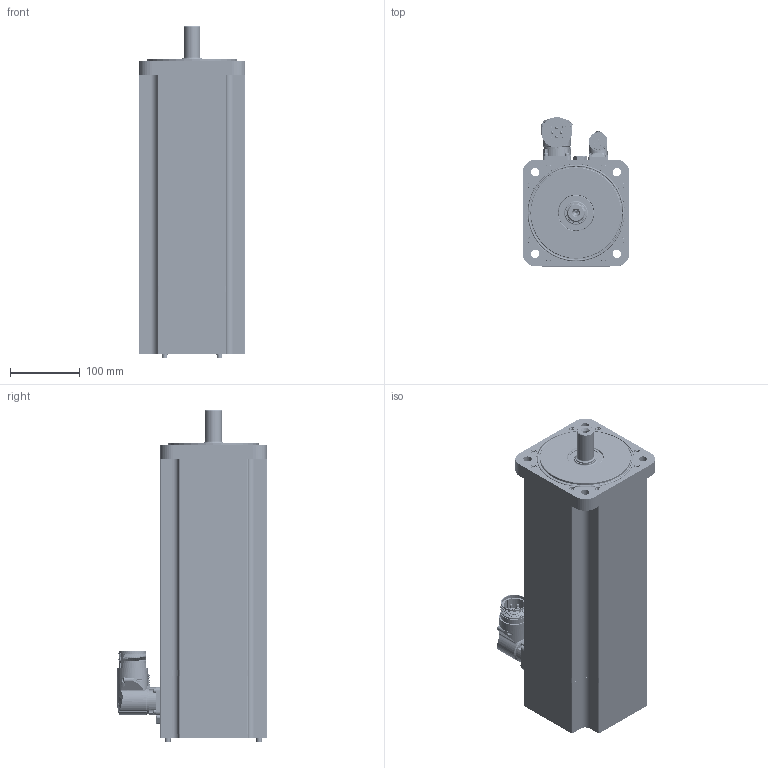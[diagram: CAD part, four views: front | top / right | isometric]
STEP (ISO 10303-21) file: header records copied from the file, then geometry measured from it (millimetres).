
FILE_DESCRIPTION (( 'STEP AP203' ), '1' );
FILE_NAME ('073713A.step', '2021-07-19T13:25:12', ( '' ), ( '' ), 'SwSTEP 2.0', 'SolidWorks 2019', '' );
FILE_SCHEMA (( 'CONFIG_CONTROL_DESIGN' ));
Products named in the file (1): 073713A
Bounding box: 152.4 x 213.64 x 474.5 mm (x, y, z)
Volume: 6694998.7 mm3; surface area: 1370532.3 mm2
Topology: 211 solids, 211 shells, 10723 faces, 28557 edges, 18550 vertices
Faces by surface type: plane 4888, cylinder 3798, bspline 973, cone 543, torus 449, sphere 72
Entity records: 488732 total; most frequent: CARTESIAN_POINT 228755, ORIENTED_EDGE 56600, DIRECTION 50706, EDGE_CURVE 28300, VERTEX_POINT 18470, AXIS2_PLACEMENT_3D 17454, LINE 15798, VECTOR 15798
